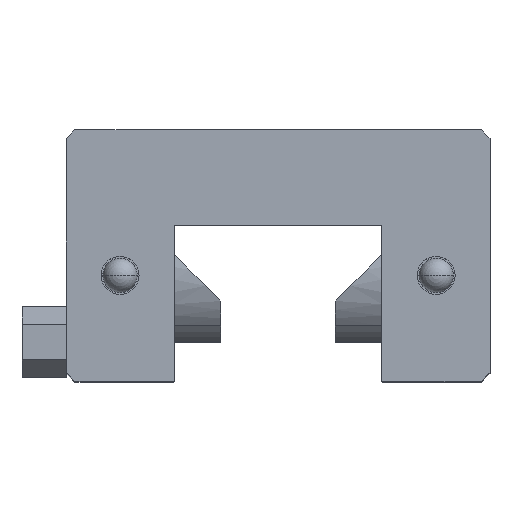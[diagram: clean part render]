
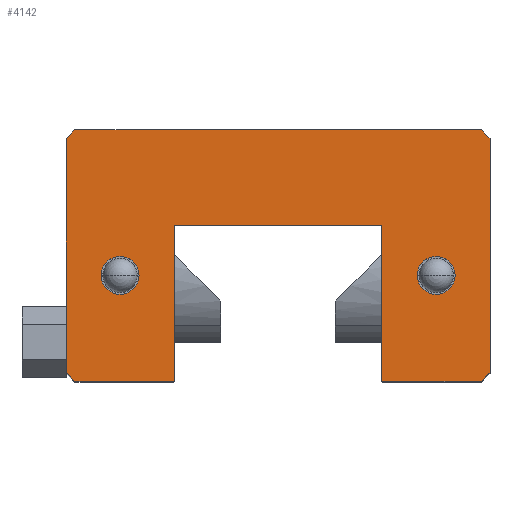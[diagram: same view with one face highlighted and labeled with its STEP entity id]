
A CAD part, top view. The second image highlights one B-rep face of the part: STEP entity #4142.
In plain terms, the highlighted planar face has unit normal (0, 0, 1).
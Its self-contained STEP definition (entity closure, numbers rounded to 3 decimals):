
#1626 = EDGE_CURVE( '', #2168, #3896, #4519, .T. );
#1646 = VERTEX_POINT( '', #4540 );
#1756 = EDGE_CURVE( '', #2520, #4084, #4662, .T. );
#1802 = VERTEX_POINT( '', #4717 );
#1814 = EDGE_CURVE( '', #3534, #3716, #4729, .T. );
#1832 = VERTEX_POINT( '', #4749 );
#1940 = EDGE_CURVE( '', #3896, #2004, #4864, .T. );
#1964 = EDGE_CURVE( '', #3576, #2168, #4889, .T. );
#2004 = VERTEX_POINT( '', #4933 );
#2168 = VERTEX_POINT( '', #5118 );
#2198 = VERTEX_POINT( '', #5157 );
#2252 = EDGE_CURVE( '', #4084, #2686, #5217, .T. );
#2356 = EDGE_CURVE( '', #2994, #2894, #5332, .T. );
#2430 = EDGE_CURVE( '', #2004, #2520, #5416, .T. );
#2520 = VERTEX_POINT( '', #5518 );
#2556 = VERTEX_POINT( '', #5561 );
#2686 = VERTEX_POINT( '', #5704 );
#2710 = EDGE_CURVE( '', #2686, #1832, #5730, .T. );
#2730 = EDGE_CURVE( '', #3226, #2994, #5753, .T. );
#2872 = EDGE_CURVE( '', #3716, #3226, #5913, .T. );
#2894 = VERTEX_POINT( '', #5937 );
#2994 = VERTEX_POINT( '', #6051 );
#3210 = EDGE_CURVE( '', #2556, #1802, #6285, .T. );
#3226 = VERTEX_POINT( '', #6304 );
#3366 = VERTEX_POINT( '', #6468 );
#3534 = VERTEX_POINT( '', #6658 );
#3546 = EDGE_CURVE( '', #2894, #3366, #6671, .T. );
#3572 = EDGE_CURVE( '', #3366, #3576, #6697, .T. );
#3576 = VERTEX_POINT( '', #6701 );
#3716 = VERTEX_POINT( '', #6871 );
#3722 = EDGE_CURVE( '', #1832, #3534, #6877, .T. );
#3896 = VERTEX_POINT( '', #7067 );
#3972 = EDGE_CURVE( '', #1646, #2198, #7149, .T. );
#3988 = EDGE_CURVE( '', #2198, #1646, #7166, .T. );
#4084 = VERTEX_POINT( '', #7275 );
#4106 = EDGE_CURVE( '', #1802, #2556, #7298, .T. );
#4142 = ADVANCED_FACE( '', ( #7337, #7338, #7339 ), #7340, .T. );
#4519 = LINE( '', #7796, #7797 );
#4540 = CARTESIAN_POINT( '', ( 17.9, 21.65, 0. ) );
#4662 = LINE( '', #7994, #7995 );
#4717 = CARTESIAN_POINT( '', ( -17.9, 17.35, 0. ) );
#4729 = LINE( '', #8085, #8086 );
#4749 = CARTESIAN_POINT( '', ( -11.75, 25.2, 0. ) );
#4864 = LINE( '', #8272, #8273 );
#4889 = LINE( '', #8312, #8313 );
#4933 = CARTESIAN_POINT( '', ( -24., 8.5, 0. ) );
#5118 = CARTESIAN_POINT( '', ( -23., 36., 0. ) );
#5157 = CARTESIAN_POINT( '', ( 17.9, 17.35, 0. ) );
#5217 = LINE( '', #8764, #8765 );
#5332 = LINE( '', #8926, #8927 );
#5416 = LINE( '', #9034, #9035 );
#5518 = CARTESIAN_POINT( '', ( -23., 7.5, 0. ) );
#5561 = CARTESIAN_POINT( '', ( -17.9, 21.65, 0. ) );
#5704 = CARTESIAN_POINT( '', ( -11.75, 7.6, 0. ) );
#5730 = LINE( '', #9453, #9454 );
#5753 = LINE( '', #9489, #9490 );
#5913 = LINE( '', #9705, #9706 );
#5937 = CARTESIAN_POINT( '', ( 24., 8.5, 0. ) );
#6051 = CARTESIAN_POINT( '', ( 23., 7.5, 0. ) );
#6285 = CIRCLE( '', #10212, 2.15 );
#6304 = CARTESIAN_POINT( '', ( 11.85, 7.5, 0. ) );
#6468 = CARTESIAN_POINT( '', ( 24., 35., 0. ) );
#6658 = CARTESIAN_POINT( '', ( 11.75, 25.2, 0. ) );
#6671 = LINE( '', #10727, #10728 );
#6697 = LINE( '', #10767, #10768 );
#6701 = CARTESIAN_POINT( '', ( 23., 36., 0. ) );
#6871 = CARTESIAN_POINT( '', ( 11.75, 7.6, 0. ) );
#6877 = LINE( '', #11004, #11005 );
#7067 = CARTESIAN_POINT( '', ( -24., 35., 0. ) );
#7149 = CIRCLE( '', #11389, 2.15 );
#7166 = CIRCLE( '', #11412, 2.15 );
#7275 = CARTESIAN_POINT( '', ( -11.85, 7.5, 0. ) );
#7298 = CIRCLE( '', #11588, 2.15 );
#7337 = FACE_BOUND( '', #11645, .T. );
#7338 = FACE_BOUND( '', #11646, .T. );
#7339 = FACE_OUTER_BOUND( '', #11647, .T. );
#7340 = PLANE( '', #11648 );
#7796 = CARTESIAN_POINT( '', ( -23., 36., 0. ) );
#7797 = VECTOR( '', #12105, 1. );
#7994 = CARTESIAN_POINT( '', ( -23., 7.5, 0. ) );
#7995 = VECTOR( '', #12243, 1. );
#8085 = CARTESIAN_POINT( '', ( 11.75, 25.2, 0. ) );
#8086 = VECTOR( '', #12338, 1. );
#8272 = CARTESIAN_POINT( '', ( -24., 35., 0. ) );
#8273 = VECTOR( '', #12457, 1. );
#8312 = CARTESIAN_POINT( '', ( 23., 36., 0. ) );
#8313 = VECTOR( '', #12480, 1. );
#8764 = CARTESIAN_POINT( '', ( -11.85, 7.5, 0. ) );
#8765 = VECTOR( '', #12884, 1. );
#8926 = CARTESIAN_POINT( '', ( 23., 7.5, 0. ) );
#8927 = VECTOR( '', #13012, 1. );
#9034 = CARTESIAN_POINT( '', ( -24., 8.5, 0. ) );
#9035 = VECTOR( '', #13109, 1. );
#9453 = CARTESIAN_POINT( '', ( -11.75, 7.6, 0. ) );
#9454 = VECTOR( '', #13508, 1. );
#9489 = CARTESIAN_POINT( '', ( 11.85, 7.5, 0. ) );
#9490 = VECTOR( '', #13541, 1. );
#9705 = CARTESIAN_POINT( '', ( 11.75, 7.6, 0. ) );
#9706 = VECTOR( '', #13732, 1. );
#10212 = AXIS2_PLACEMENT_3D( '', #14110, #14111, #14112 );
#10727 = CARTESIAN_POINT( '', ( 24., 8.5, 0. ) );
#10728 = VECTOR( '', #14593, 1. );
#10767 = CARTESIAN_POINT( '', ( 24., 35., 0. ) );
#10768 = VECTOR( '', #14605, 1. );
#11004 = CARTESIAN_POINT( '', ( -11.75, 25.2, 0. ) );
#11005 = VECTOR( '', #14824, 1. );
#11389 = AXIS2_PLACEMENT_3D( '', #15077, #15078, #15079 );
#11412 = AXIS2_PLACEMENT_3D( '', #15093, #15094, #15095 );
#11588 = AXIS2_PLACEMENT_3D( '', #15251, #15252, #15253 );
#11645 = EDGE_LOOP( '', ( #15293, #15294 ) );
#11646 = EDGE_LOOP( '', ( #15295, #15296 ) );
#11647 = EDGE_LOOP( '', ( #15297, #15298, #15299, #15300, #15301, #15302, #15303, #15304, #15305, #15306, #15307, #15308, #15309, #15310 ) );
#11648 = AXIS2_PLACEMENT_3D( '', #15311, #15312, #15313 );
#12105 = DIRECTION( '', ( -0.707, -0.707, 0. ) );
#12243 = DIRECTION( '', ( 1., 0., 0. ) );
#12338 = DIRECTION( '', ( 0., -1., 0. ) );
#12457 = DIRECTION( '', ( 0., -1., 0. ) );
#12480 = DIRECTION( '', ( -1., 0., 0. ) );
#12884 = DIRECTION( '', ( 0.707, 0.707, 0. ) );
#13012 = DIRECTION( '', ( 0.707, 0.707, 0. ) );
#13109 = DIRECTION( '', ( 0.707, -0.707, 0. ) );
#13508 = DIRECTION( '', ( 0., 1., 0. ) );
#13541 = DIRECTION( '', ( 1., 0., 0. ) );
#13732 = DIRECTION( '', ( 0.707, -0.707, 0. ) );
#14110 = CARTESIAN_POINT( '', ( -17.9, 19.5, 0. ) );
#14111 = DIRECTION( '', ( 0., 0., -1. ) );
#14112 = DIRECTION( '', ( 0., -1., 0. ) );
#14593 = DIRECTION( '', ( 0., 1., 0. ) );
#14605 = DIRECTION( '', ( -0.707, 0.707, 0. ) );
#14824 = DIRECTION( '', ( 1., 0., 0. ) );
#15077 = CARTESIAN_POINT( '', ( 17.9, 19.5, 0. ) );
#15078 = DIRECTION( '', ( 0., 0., -1. ) );
#15079 = DIRECTION( '', ( 0., -1., 0. ) );
#15093 = CARTESIAN_POINT( '', ( 17.9, 19.5, 0. ) );
#15094 = DIRECTION( '', ( 0., 0., -1. ) );
#15095 = DIRECTION( '', ( 0., -1., 0. ) );
#15251 = CARTESIAN_POINT( '', ( -17.9, 19.5, 0. ) );
#15252 = DIRECTION( '', ( 0., 0., -1. ) );
#15253 = DIRECTION( '', ( 0., -1., 0. ) );
#15293 = ORIENTED_EDGE( '', *, *, #3972, .T. );
#15294 = ORIENTED_EDGE( '', *, *, #3988, .T. );
#15295 = ORIENTED_EDGE( '', *, *, #3210, .T. );
#15296 = ORIENTED_EDGE( '', *, *, #4106, .T. );
#15297 = ORIENTED_EDGE( '', *, *, #1940, .T. );
#15298 = ORIENTED_EDGE( '', *, *, #2430, .T. );
#15299 = ORIENTED_EDGE( '', *, *, #1756, .T. );
#15300 = ORIENTED_EDGE( '', *, *, #2252, .T. );
#15301 = ORIENTED_EDGE( '', *, *, #2710, .T. );
#15302 = ORIENTED_EDGE( '', *, *, #3722, .T. );
#15303 = ORIENTED_EDGE( '', *, *, #1814, .T. );
#15304 = ORIENTED_EDGE( '', *, *, #2872, .T. );
#15305 = ORIENTED_EDGE( '', *, *, #2730, .T. );
#15306 = ORIENTED_EDGE( '', *, *, #2356, .T. );
#15307 = ORIENTED_EDGE( '', *, *, #3546, .T. );
#15308 = ORIENTED_EDGE( '', *, *, #3572, .T. );
#15309 = ORIENTED_EDGE( '', *, *, #1964, .T. );
#15310 = ORIENTED_EDGE( '', *, *, #1626, .T. );
#15311 = CARTESIAN_POINT( '', ( 0., 0., 0. ) );
#15312 = DIRECTION( '', ( 0., 0., 1. ) );
#15313 = DIRECTION( '', ( 1., 0., 0. ) );
